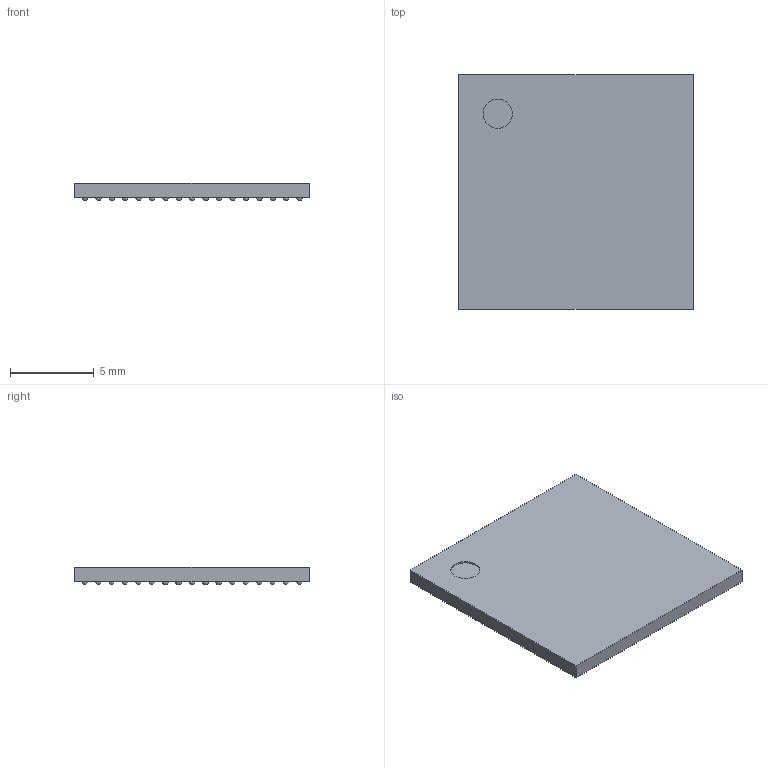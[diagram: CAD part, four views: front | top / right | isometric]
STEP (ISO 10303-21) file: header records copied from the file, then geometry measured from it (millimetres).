
FILE_DESCRIPTION(('Open CASCADE Model'),'2;1');
FILE_NAME('Open CASCADE Shape Model','2024-07-23T10:10:27',('Author'),( 'Open CASCADE'),'Open CASCADE STEP processor 7.5','Open CASCADE 7.5' ,'Unknown');
FILE_SCHEMA(('AUTOMOTIVE_DESIGN { 1 0 10303 214 1 1 1 1 }'));
Length unit declared in the file: millimetre
Products named in the file (5): BGA265C80P17X17_1400X1400X107.step; Open CASCADE STEP translator 7.5 25.1; Body; Open CASCADE STEP translator 7.5 25.2.1; ball
Assembly tree (268 placements, depth 3):
  BGA265C80P17X17_1400X1400X107.step
    Open CASCADE STEP translator 7.5 25.1
    Body
      Open CASCADE STEP translator 7.5 25.2.1
    ball  x265
Bounding box: 14 x 14 x 1.07 mm (x, y, z)
Volume: 176.8 mm3; surface area: 551.6 mm2
Topology: 266 solids, 267 shells, 274 faces, 811 edges, 541 vertices
Faces by surface type: sphere 265, plane 8, cylinder 1
Full cylindrical faces by diameter (mm): 1.75 x1
Entity records: 2459 total; most frequent: DIRECTION 577, CARTESIAN_POINT 307, AXIS2_PLACEMENT_3D 282, PRODUCT_DEFINITION_SHAPE 273, CONTEXT_DEPENDENT_SHAPE_REPRESENTATION 268, ITEM_DEFINED_TRANSFORMATION 268, NEXT_ASSEMBLY_USAGE_OCCURRENCE 268, ORIENTED_EDGE 31
